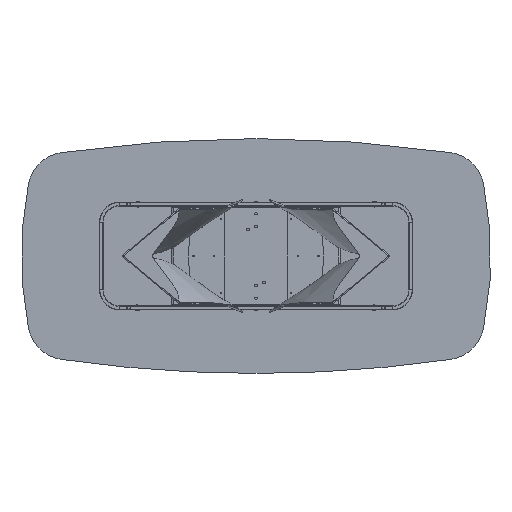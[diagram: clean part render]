
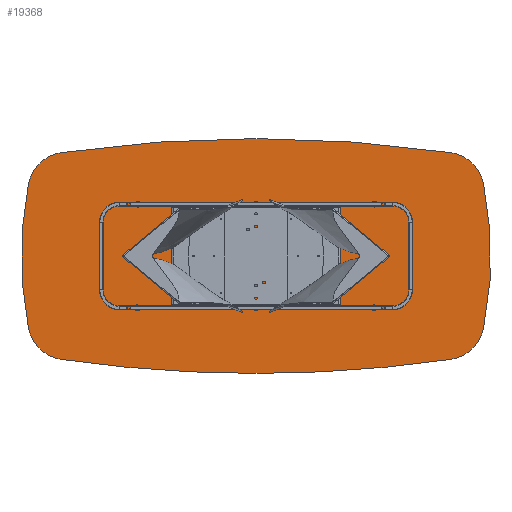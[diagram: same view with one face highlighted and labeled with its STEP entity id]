
A CAD part, front view. The second image highlights one B-rep face of the part: STEP entity #19368.
In plain terms, the highlighted planar face has unit normal (0, -1, 0).
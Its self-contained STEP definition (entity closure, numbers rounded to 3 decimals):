
#568 = DIRECTION ( 'NONE',  ( 0., 1., 0. ) ) ;
#850 = DIRECTION ( 'NONE',  ( 0., 1., 0. ) ) ;
#856 = AXIS2_PLACEMENT_3D ( 'NONE', #17693, #21448, #16084 ) ;
#1082 = DIRECTION ( 'NONE',  ( 0., 0., 1. ) ) ;
#1332 = CARTESIAN_POINT ( 'NONE',  ( 0., 0., -600. ) ) ;
#1518 = DIRECTION ( 'NONE',  ( 0., 0., 1. ) ) ;
#2244 = DIRECTION ( 'NONE',  ( 0., 0., 1. ) ) ;
#2280 = DIRECTION ( 'NONE',  ( 0., 0., 1. ) ) ;
#2829 = AXIS2_PLACEMENT_3D ( 'NONE', #14994, #21960, #1082 ) ;
#2937 = VERTEX_POINT ( 'NONE', #1332 ) ;
#3075 = CIRCLE ( 'NONE', #15819, 6950. ) ;
#3170 = CIRCLE ( 'NONE', #11917, 6950. ) ;
#3640 = DIRECTION ( 'NONE',  ( 0., 0., 1. ) ) ;
#3908 = AXIS2_PLACEMENT_3D ( 'NONE', #15921, #21399, #2244 ) ;
#4156 = CIRCLE ( 'NONE', #18715, 200. ) ;
#5363 = DIRECTION ( 'NONE',  ( 0., 1., 0. ) ) ;
#5466 = DIRECTION ( 'NONE',  ( 0., 0., 1. ) ) ;
#5612 = VERTEX_POINT ( 'NONE', #7107 ) ;
#5792 = CARTESIAN_POINT ( 'NONE',  ( 0., 0., 6350. ) ) ;
#6415 = VERTEX_POINT ( 'NONE', #11498 ) ;
#6971 = CARTESIAN_POINT ( 'NONE',  ( 0., 0., 6350. ) ) ;
#7107 = CARTESIAN_POINT ( 'NONE',  ( 1162.39, 0., 370.629 ) ) ;
#7185 = EDGE_CURVE ( 'NONE', #5612, #7833, #11047, .T. ) ;
#7482 = ORIENTED_EDGE ( 'NONE', *, *, #14598, .T. ) ;
#7744 = EDGE_CURVE ( 'NONE', #11892, #22293, #4156, .T. ) ;
#7833 = VERTEX_POINT ( 'NONE', #19597 ) ;
#8072 = EDGE_CURVE ( 'NONE', #6415, #2937, #3075, .T. ) ;
#8907 = ORIENTED_EDGE ( 'NONE', *, *, #17449, .F. ) ;
#9222 = CARTESIAN_POINT ( 'NONE',  ( -322.5, 0., 3175. ) ) ;
#9326 = DIRECTION ( 'NONE',  ( 0., 0., 1. ) ) ;
#9423 = CIRCLE ( 'NONE', #12361, 6950. ) ;
#9511 = CARTESIAN_POINT ( 'NONE',  ( -1162.39, 0., 370.629 ) ) ;
#10390 = DIRECTION ( 'NONE',  ( 0., 0., 1. ) ) ;
#10588 = CARTESIAN_POINT ( 'NONE',  ( -966.467, 0., 330.452 ) ) ;
#10620 = ORIENTED_EDGE ( 'NONE', *, *, #16631, .F. ) ;
#10634 = CARTESIAN_POINT ( 'NONE',  ( -1162.39, 0., -370.629 ) ) ;
#10711 = ORIENTED_EDGE ( 'NONE', *, *, #15358, .T. ) ;
#11005 = CARTESIAN_POINT ( 'NONE',  ( 966.467, 0., -330.452 ) ) ;
#11047 = CIRCLE ( 'NONE', #856, 200. ) ;
#11048 = PLANE ( 'NONE',  #16407 ) ;
#11432 = VERTEX_POINT ( 'NONE', #19470 ) ;
#11498 = CARTESIAN_POINT ( 'NONE',  ( 995.103, 0., -528.391 ) ) ;
#11892 = VERTEX_POINT ( 'NONE', #21716 ) ;
#11893 = ORIENTED_EDGE ( 'NONE', *, *, #8072, .F. ) ;
#11917 = AXIS2_PLACEMENT_3D ( 'NONE', #6971, #17577, #10390 ) ;
#11934 = CIRCLE ( 'NONE', #3908, 1845. ) ;
#12235 = VERTEX_POINT ( 'NONE', #10634 ) ;
#12247 = CARTESIAN_POINT ( 'NONE',  ( 1162.39, 0., -370.629 ) ) ;
#12268 = VERTEX_POINT ( 'NONE', #12247 ) ;
#12297 = AXIS2_PLACEMENT_3D ( 'NONE', #11005, #12626, #19461 ) ;
#12361 = AXIS2_PLACEMENT_3D ( 'NONE', #22360, #5363, #5466 ) ;
#12626 = DIRECTION ( 'NONE',  ( 0., -1., 0. ) ) ;
#12663 = CIRCLE ( 'NONE', #2829, 200. ) ;
#13651 = ORIENTED_EDGE ( 'NONE', *, *, #13743, .F. ) ;
#13743 = EDGE_CURVE ( 'NONE', #2937, #11432, #3170, .T. ) ;
#14022 = ORIENTED_EDGE ( 'NONE', *, *, #7185, .T. ) ;
#14348 = DIRECTION ( 'NONE',  ( 0., -1., 0. ) ) ;
#14540 = AXIS2_PLACEMENT_3D ( 'NONE', #16456, #850, #1518 ) ;
#14598 = EDGE_CURVE ( 'NONE', #6415, #12268, #17015, .T. ) ;
#14719 = EDGE_CURVE ( 'NONE', #12235, #22293, #11934, .T. ) ;
#14994 = CARTESIAN_POINT ( 'NONE',  ( -966.467, 0., -330.452 ) ) ;
#15358 = EDGE_CURVE ( 'NONE', #12235, #11432, #12663, .T. ) ;
#15819 = AXIS2_PLACEMENT_3D ( 'NONE', #5792, #18448, #9326 ) ;
#15921 = CARTESIAN_POINT ( 'NONE',  ( 645., 0., 0. ) ) ;
#16084 = DIRECTION ( 'NONE',  ( 0., 0., 1. ) ) ;
#16407 = AXIS2_PLACEMENT_3D ( 'NONE', #9222, #568, #2280 ) ;
#16456 = CARTESIAN_POINT ( 'NONE',  ( -645., 0., 0. ) ) ;
#16631 = EDGE_CURVE ( 'NONE', #11892, #7833, #9423, .T. ) ;
#17015 = CIRCLE ( 'NONE', #12297, 200. ) ;
#17449 = EDGE_CURVE ( 'NONE', #5612, #12268, #21839, .T. ) ;
#17577 = DIRECTION ( 'NONE',  ( 0., 1., 0. ) ) ;
#17693 = CARTESIAN_POINT ( 'NONE',  ( 966.467, 0., 330.452 ) ) ;
#18215 = EDGE_LOOP ( 'NONE', ( #10620, #18289, #21988, #10711, #13651, #11893, #7482, #8907, #14022 ) ) ;
#18289 = ORIENTED_EDGE ( 'NONE', *, *, #7744, .T. ) ;
#18448 = DIRECTION ( 'NONE',  ( 0., 1., 0. ) ) ;
#18715 = AXIS2_PLACEMENT_3D ( 'NONE', #10588, #14348, #3640 ) ;
#19368 = ADVANCED_FACE ( 'NONE', ( #21544 ), #11048, .F. ) ;
#19461 = DIRECTION ( 'NONE',  ( 0., 0., 1. ) ) ;
#19470 = CARTESIAN_POINT ( 'NONE',  ( -995.103, 0., -528.391 ) ) ;
#19597 = CARTESIAN_POINT ( 'NONE',  ( 995.103, 0., 528.391 ) ) ;
#21399 = DIRECTION ( 'NONE',  ( 0., 1., 0. ) ) ;
#21448 = DIRECTION ( 'NONE',  ( 0., -1., 0. ) ) ;
#21544 = FACE_OUTER_BOUND ( 'NONE', #18215, .T. ) ;
#21716 = CARTESIAN_POINT ( 'NONE',  ( -995.103, 0., 528.391 ) ) ;
#21839 = CIRCLE ( 'NONE', #14540, 1845. ) ;
#21960 = DIRECTION ( 'NONE',  ( 0., -1., 0. ) ) ;
#21988 = ORIENTED_EDGE ( 'NONE', *, *, #14719, .F. ) ;
#22293 = VERTEX_POINT ( 'NONE', #9511 ) ;
#22360 = CARTESIAN_POINT ( 'NONE',  ( 0., 0., -6350. ) ) ;
